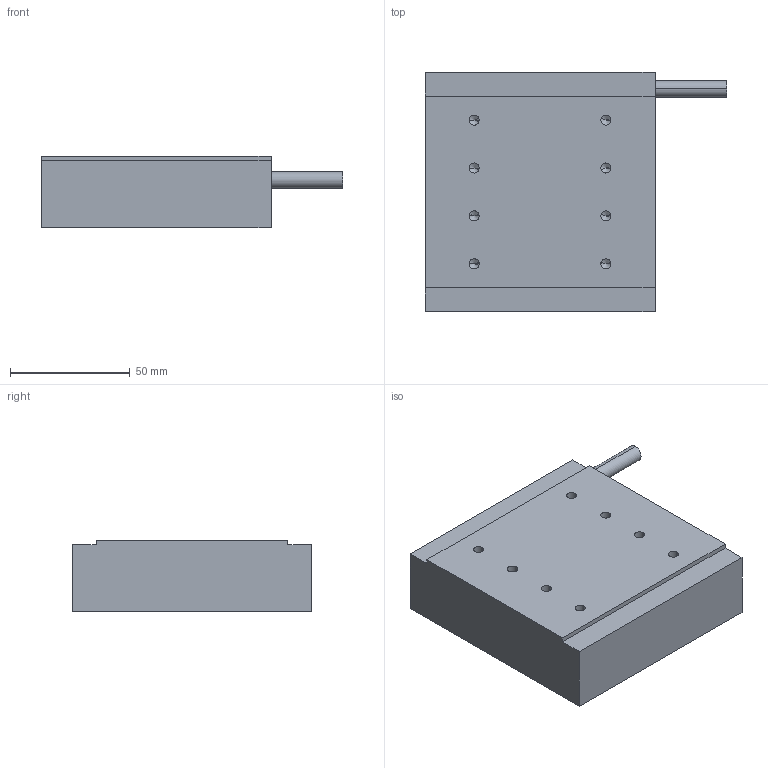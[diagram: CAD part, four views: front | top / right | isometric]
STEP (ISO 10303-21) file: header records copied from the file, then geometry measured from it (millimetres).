
FILE_DESCRIPTION (( 'STEP AP214' ), '1' );
FILE_NAME ('FLT-100-96.STEP', '2022-04-13T09:26:17', ( 'Microsoft' ), ( 'Microsoft' ), 'SwSTEP 2.0', 'SolidWorks 2016', '' );
FILE_SCHEMA (( 'AUTOMOTIVE_DESIGN' ));
Length unit declared in the file: millimetre
Products named in the file (1): FLT-100-96
Bounding box: 126 x 100 x 30 mm (x, y, z)
Volume: 284501.9 mm3; surface area: 32257.7 mm2
Topology: 1 solids, 1 shells, 53 faces, 130 edges, 70 vertices
Faces by surface type: cylinder 22, cone 20, plane 11
Entity records: 1662 total; most frequent: DIRECTION 262, CARTESIAN_POINT 234, ORIENTED_EDGE 220, EDGE_CURVE 110, AXIS2_PLACEMENT_3D 98, VERTEX_POINT 70, LINE 66, VECTOR 66
